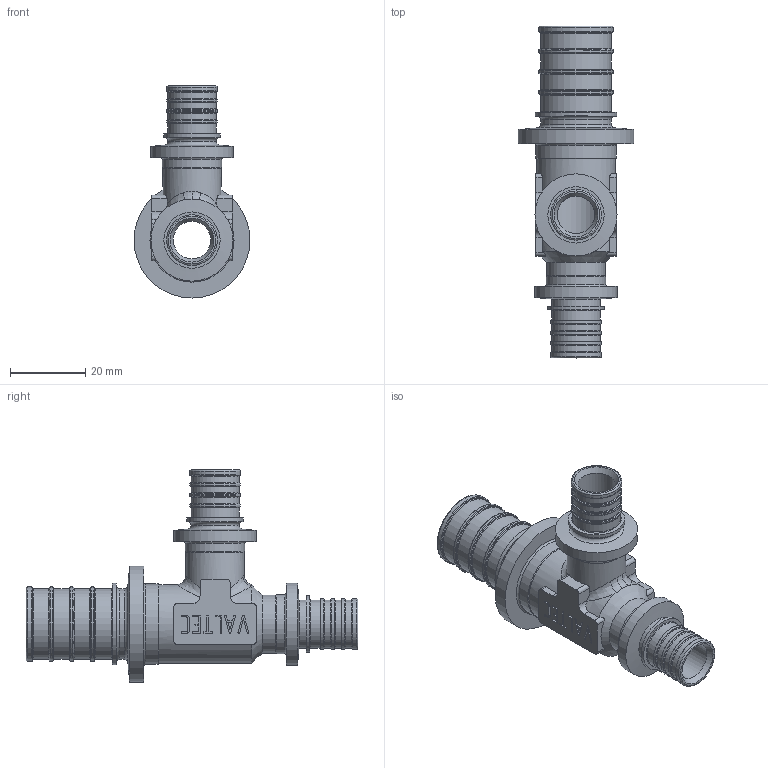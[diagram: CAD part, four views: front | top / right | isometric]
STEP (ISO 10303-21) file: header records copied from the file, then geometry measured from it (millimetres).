
FILE_DESCRIPTION(('STEP AP203'), '1');
FILE_NAME('覆.752241.012 - VTm.431.G.251616 秮鍣. 縺鳱', '', ('UNSPECIFIED'), ('UNSPECIFIED'), 'C3D Converter', 'C3D Toolkit', '');
FILE_SCHEMA(('CONFIG_CONTROL_DESIGN'));
Length unit declared in the file: millimetre
Products named in the file (1): ВР.752241.012
Bounding box: 30.9 x 88.5 x 56.55 mm (x, y, z)
Volume: 17002.7 mm3; surface area: 14125.8 mm2
Topology: 1 solids, 1 shells, 403 faces, 1018 edges, 654 vertices
Faces by surface type: extrusion 142, plane 138, cylinder 59, torus 48, cone 11, bspline 5
Full cylindrical faces by diameter (mm): 10 x2, 12.8 x9, 13.5 x8, 15 x3, 15.5 x2, 15.8 x2, 18.8 x5, 19.8 x4, 21 x1, 21.4 x1, 21.8 x1, 21.9 x2, 30.9 x1
Entity records: 16414 total; most frequent: CARTESIAN_POINT 4384, ORIENTED_EDGE 1836, DIRECTION 1404, EDGE_CURVE 918, VERTEX_POINT 657, VECTOR 582, EDGE_LOOP 544, B_SPLINE_CURVE_WITH_KNOTS 466
